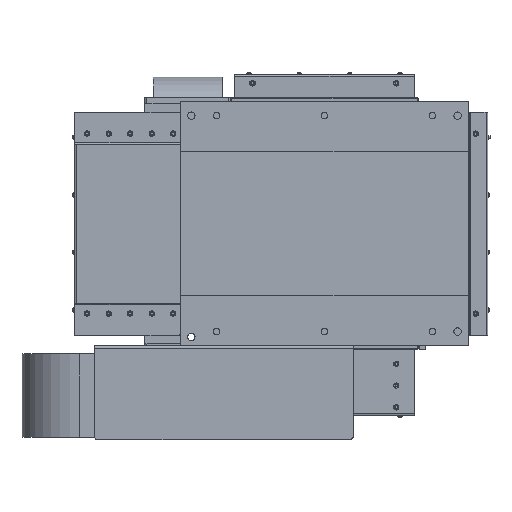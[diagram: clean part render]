
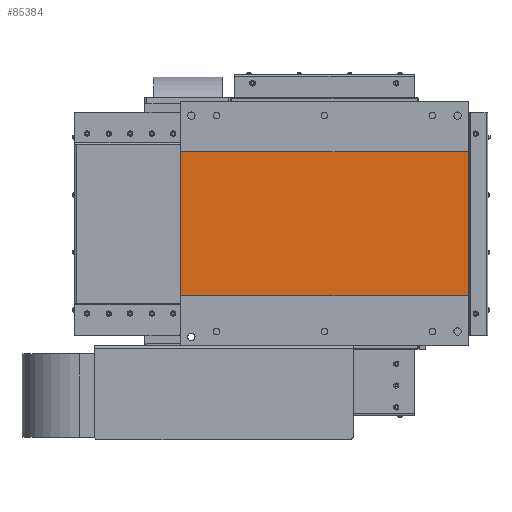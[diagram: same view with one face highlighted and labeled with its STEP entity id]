
A CAD part, front view. The second image highlights one B-rep face of the part: STEP entity #85384.
In plain terms, the highlighted planar face has unit normal (0, -1, 0).
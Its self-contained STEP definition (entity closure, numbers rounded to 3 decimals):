
#8004 = LINE ( 'NONE', #26626, #28315 ) ;
#13783 = EDGE_LOOP ( 'NONE', ( #82972, #77927, #42681, #48259 ) ) ;
#15386 = DIRECTION ( 'NONE',  ( 0., 0., 1. ) ) ;
#17485 = VERTEX_POINT ( 'NONE', #80904 ) ;
#19304 = FACE_OUTER_BOUND ( 'NONE', #13783, .T. ) ;
#19892 = VERTEX_POINT ( 'NONE', #53949 ) ;
#21579 = LINE ( 'NONE', #24941, #91279 ) ;
#22897 = VERTEX_POINT ( 'NONE', #86128 ) ;
#23079 = CARTESIAN_POINT ( 'NONE',  ( -200., 0.5, -100. ) ) ;
#24941 = CARTESIAN_POINT ( 'NONE',  ( -200., 0.5, 100. ) ) ;
#26626 = CARTESIAN_POINT ( 'NONE',  ( 200., 0.5, 100. ) ) ;
#28315 = VECTOR ( 'NONE', #36905, 1000. ) ;
#33456 = EDGE_CURVE ( 'NONE', #22897, #19892, #83785, .T. ) ;
#36549 = AXIS2_PLACEMENT_3D ( 'NONE', #70811, #54845, #63020 ) ;
#36905 = DIRECTION ( 'NONE',  ( 0., 0., -1. ) ) ;
#39736 = DIRECTION ( 'NONE',  ( -1., 0., 0. ) ) ;
#40713 = VECTOR ( 'NONE', #39736, 1000. ) ;
#41786 = DIRECTION ( 'NONE',  ( 1., 0., 0. ) ) ;
#42681 = ORIENTED_EDGE ( 'NONE', *, *, #33456, .F. ) ;
#48259 = ORIENTED_EDGE ( 'NONE', *, *, #80833, .F. ) ;
#53949 = CARTESIAN_POINT ( 'NONE',  ( -200., 0.5, -100. ) ) ;
#54845 = DIRECTION ( 'NONE',  ( 0., 1., 0. ) ) ;
#55561 = PLANE ( 'NONE',  #36549 ) ;
#63020 = DIRECTION ( 'NONE',  ( 0., 0., -1. ) ) ;
#65235 = CARTESIAN_POINT ( 'NONE',  ( -200., 0.5, 100. ) ) ;
#70811 = CARTESIAN_POINT ( 'NONE',  ( 200., 0.5, 100. ) ) ;
#74146 = EDGE_CURVE ( 'NONE', #83600, #17485, #100064, .T. ) ;
#77927 = ORIENTED_EDGE ( 'NONE', *, *, #91342, .F. ) ;
#80833 = EDGE_CURVE ( 'NONE', #17485, #22897, #8004, .T. ) ;
#80904 = CARTESIAN_POINT ( 'NONE',  ( 200., 0.5, 100. ) ) ;
#82317 = VECTOR ( 'NONE', #41786, 1000. ) ;
#82972 = ORIENTED_EDGE ( 'NONE', *, *, #74146, .F. ) ;
#83600 = VERTEX_POINT ( 'NONE', #98641 ) ;
#83785 = LINE ( 'NONE', #23079, #40713 ) ;
#85384 = ADVANCED_FACE ( 'NONE', ( #19304 ), #55561, .F. ) ;
#86128 = CARTESIAN_POINT ( 'NONE',  ( 200., 0.5, -100. ) ) ;
#91279 = VECTOR ( 'NONE', #15386, 1000. ) ;
#91342 = EDGE_CURVE ( 'NONE', #19892, #83600, #21579, .T. ) ;
#98641 = CARTESIAN_POINT ( 'NONE',  ( -200., 0.5, 100. ) ) ;
#100064 = LINE ( 'NONE', #65235, #82317 ) ;
